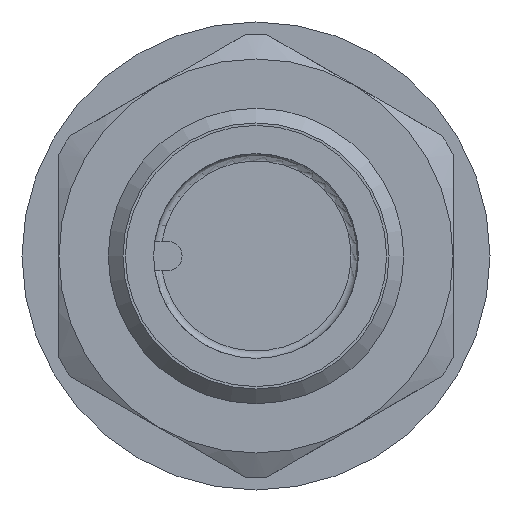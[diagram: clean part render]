
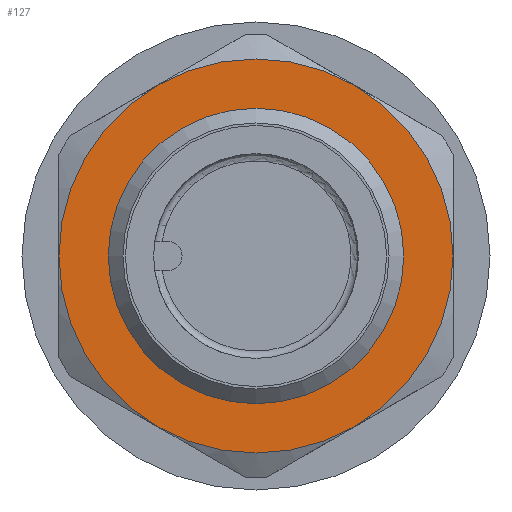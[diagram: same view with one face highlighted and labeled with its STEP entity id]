
A CAD part, left-side view. The second image highlights one B-rep face of the part: STEP entity #127.
In plain terms, the highlighted planar face has unit normal (-1, 0, 0).
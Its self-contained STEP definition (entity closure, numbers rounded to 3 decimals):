
#127 = ADVANCED_FACE( '', ( #275, #276 ), #277, .F. );
#275 = FACE_OUTER_BOUND( '', #442, .T. );
#276 = FACE_BOUND( '', #443, .T. );
#277 = PLANE( '', #444 );
#442 = EDGE_LOOP( '', ( #787, #788, #789, #790, #791, #792 ) );
#443 = EDGE_LOOP( '', ( #793 ) );
#444 = AXIS2_PLACEMENT_3D( '', #794, #795, #796 );
#787 = ORIENTED_EDGE( '', *, *, #958, .F. );
#788 = ORIENTED_EDGE( '', *, *, #955, .F. );
#789 = ORIENTED_EDGE( '', *, *, #954, .F. );
#790 = ORIENTED_EDGE( '', *, *, #957, .F. );
#791 = ORIENTED_EDGE( '', *, *, #959, .F. );
#792 = ORIENTED_EDGE( '', *, *, #962, .F. );
#793 = ORIENTED_EDGE( '', *, *, #960, .T. );
#794 = CARTESIAN_POINT( '', ( -7.5, 5.865, 0. ) );
#795 = DIRECTION( '', ( 1., 0., 0. ) );
#796 = DIRECTION( '', ( 0., 0., -1. ) );
#954 = EDGE_CURVE( '', #1087, #1072, #1126, .T. );
#955 = EDGE_CURVE( '', #1072, #1094, #1127, .T. );
#957 = EDGE_CURVE( '', #1113, #1087, #1129, .T. );
#958 = EDGE_CURVE( '', #1094, #1108, #1130, .T. );
#959 = EDGE_CURVE( '', #992, #1113, #1131, .T. );
#960 = EDGE_CURVE( '', #1132, #1132, #1133, .T. );
#962 = EDGE_CURVE( '', #1108, #992, #1136, .T. );
#992 = VERTEX_POINT( '', #1189 );
#1072 = VERTEX_POINT( '', #1353 );
#1087 = VERTEX_POINT( '', #1384 );
#1094 = VERTEX_POINT( '', #1405 );
#1108 = VERTEX_POINT( '', #1435 );
#1113 = VERTEX_POINT( '', #1453 );
#1126 = CIRCLE( '', #1481, 8. );
#1127 = CIRCLE( '', #1482, 8. );
#1129 = CIRCLE( '', #1484, 8. );
#1130 = CIRCLE( '', #1485, 8. );
#1131 = CIRCLE( '', #1486, 8. );
#1132 = VERTEX_POINT( '', #1487 );
#1133 = CIRCLE( '', #1488, 5.865 );
#1136 = CIRCLE( '', #1491, 8. );
#1189 = CARTESIAN_POINT( '', ( -7.5, -4., 6.928 ) );
#1353 = CARTESIAN_POINT( '', ( -7.5, 4., -6.928 ) );
#1384 = CARTESIAN_POINT( '', ( -7.5, -4., -6.928 ) );
#1405 = CARTESIAN_POINT( '', ( -7.5, 8., 0. ) );
#1435 = CARTESIAN_POINT( '', ( -7.5, 4., 6.928 ) );
#1453 = CARTESIAN_POINT( '', ( -7.5, -8., 0. ) );
#1481 = AXIS2_PLACEMENT_3D( '', #1655, #1656, #1657 );
#1482 = AXIS2_PLACEMENT_3D( '', #1658, #1659, #1660 );
#1484 = AXIS2_PLACEMENT_3D( '', #1664, #1665, #1666 );
#1485 = AXIS2_PLACEMENT_3D( '', #1667, #1668, #1669 );
#1486 = AXIS2_PLACEMENT_3D( '', #1670, #1671, #1672 );
#1487 = CARTESIAN_POINT( '', ( -7.5, 0., -5.865 ) );
#1488 = AXIS2_PLACEMENT_3D( '', #1673, #1674, #1675 );
#1491 = AXIS2_PLACEMENT_3D( '', #1679, #1680, #1681 );
#1655 = CARTESIAN_POINT( '', ( -7.5, 0., 0. ) );
#1656 = DIRECTION( '', ( 1., 0., 0. ) );
#1657 = DIRECTION( '', ( 0., 0., -1. ) );
#1658 = CARTESIAN_POINT( '', ( -7.5, 0., 0. ) );
#1659 = DIRECTION( '', ( 1., 0., 0. ) );
#1660 = DIRECTION( '', ( 0., 0., -1. ) );
#1664 = CARTESIAN_POINT( '', ( -7.5, 0., 0. ) );
#1665 = DIRECTION( '', ( 1., 0., 0. ) );
#1666 = DIRECTION( '', ( 0., 0., -1. ) );
#1667 = CARTESIAN_POINT( '', ( -7.5, 0., 0. ) );
#1668 = DIRECTION( '', ( 1., 0., 0. ) );
#1669 = DIRECTION( '', ( 0., 0., -1. ) );
#1670 = CARTESIAN_POINT( '', ( -7.5, 0., 0. ) );
#1671 = DIRECTION( '', ( 1., 0., 0. ) );
#1672 = DIRECTION( '', ( 0., 0., -1. ) );
#1673 = CARTESIAN_POINT( '', ( -7.5, 0., 0. ) );
#1674 = DIRECTION( '', ( 1., 0., 0. ) );
#1675 = DIRECTION( '', ( 0., 0., -1. ) );
#1679 = CARTESIAN_POINT( '', ( -7.5, 0., 0. ) );
#1680 = DIRECTION( '', ( 1., 0., 0. ) );
#1681 = DIRECTION( '', ( 0., 0., -1. ) );
